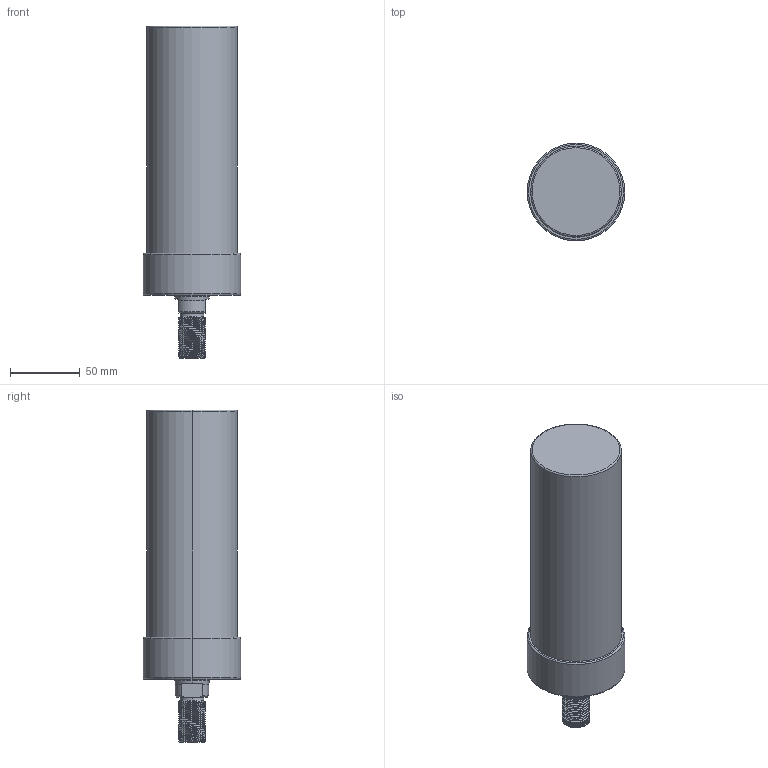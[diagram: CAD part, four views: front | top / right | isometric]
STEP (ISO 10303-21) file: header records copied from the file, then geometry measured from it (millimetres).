
FILE_DESCRIPTION (( 'STEP AP203' ), '1' );
FILE_NAME ('CLLU-065GT-130.STEP', '2020-01-16T02:18:32', ( '' ), ( '' ), 'SwSTEP 2.0', 'SolidWorks 2015', '' );
FILE_SCHEMA (( 'CONFIG_CONTROL_DESIGN' ));
Length unit declared in the file: millimetre
Products named in the file (1): CLLU-065GT-130
Bounding box: 70 x 70 x 238 mm (x, y, z)
Volume: 669070.6 mm3; surface area: 52741.1 mm2
Topology: 1 solids, 1 shells, 106 faces, 269 edges, 166 vertices
Faces by surface type: cylinder 60, cone 26, plane 12, torus 6, bspline 2
Entity records: 5386 total; most frequent: CARTESIAN_POINT 3009, ORIENTED_EDGE 522, DIRECTION 451, EDGE_CURVE 261, AXIS2_PLACEMENT_3D 180, VERTEX_POINT 166, EDGE_LOOP 115, FACE_OUTER_BOUND 106
